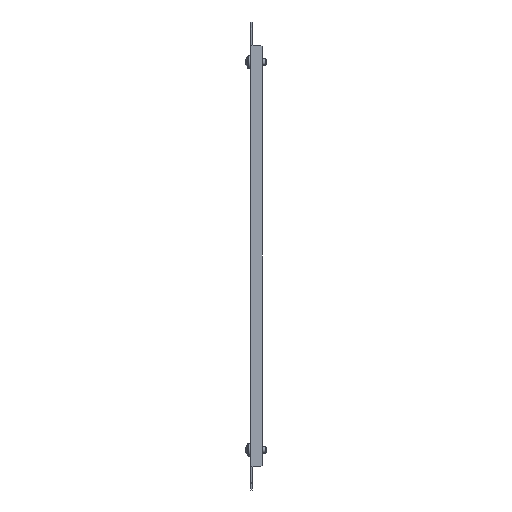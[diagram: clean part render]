
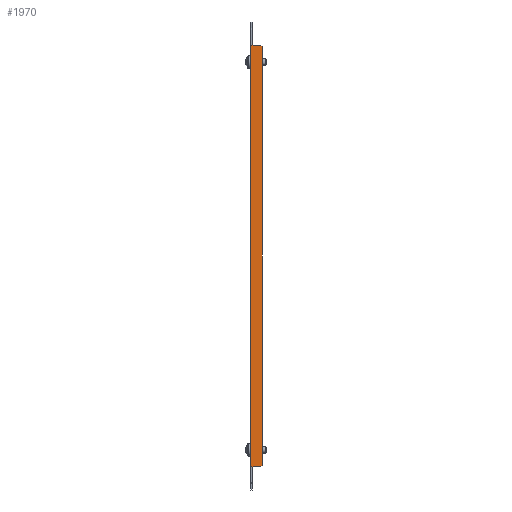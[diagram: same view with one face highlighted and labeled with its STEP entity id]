
A CAD part, left-side view. The second image highlights one B-rep face of the part: STEP entity #1970.
In plain terms, the highlighted planar face has unit normal (-1, 0, 0) as drawn and (1, 0, 0) by its records, which use the part's own axes.
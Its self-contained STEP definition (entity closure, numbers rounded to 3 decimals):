
#11 = LINE ( 'NONE', #421, #437 ) ;
#45 = CARTESIAN_POINT ( 'NONE',  ( 134., -163., -8. ) ) ;
#58 = EDGE_CURVE ( 'NONE', #2334, #269, #1135, .T. ) ;
#98 = CARTESIAN_POINT ( 'NONE',  ( 134., 163., -8. ) ) ;
#137 = ORIENTED_EDGE ( 'NONE', *, *, #2398, .T. ) ;
#184 = CARTESIAN_POINT ( 'NONE',  ( 134., -163., 0. ) ) ;
#188 = CARTESIAN_POINT ( 'NONE',  ( 134., 0., -9. ) ) ;
#269 = VERTEX_POINT ( 'NONE', #45 ) ;
#362 = VERTEX_POINT ( 'NONE', #1465 ) ;
#421 = CARTESIAN_POINT ( 'NONE',  ( 134., -162., -9. ) ) ;
#436 = CARTESIAN_POINT ( 'NONE',  ( 134., -163., 0. ) ) ;
#437 = VECTOR ( 'NONE', #2274, 1000. ) ;
#469 = EDGE_CURVE ( 'NONE', #988, #1177, #1475, .T. ) ;
#481 = DIRECTION ( 'NONE',  ( 0., 0., 1. ) ) ;
#558 = VERTEX_POINT ( 'NONE', #1768 ) ;
#683 = DIRECTION ( 'NONE',  ( 0., 0., -1. ) ) ;
#697 = LINE ( 'NONE', #436, #2885 ) ;
#702 = LINE ( 'NONE', #1176, #1924 ) ;
#713 = LINE ( 'NONE', #2545, #2795 ) ;
#840 = ORIENTED_EDGE ( 'NONE', *, *, #2308, .T. ) ;
#879 = CARTESIAN_POINT ( 'NONE',  ( 134., 163., -2.1 ) ) ;
#887 = DIRECTION ( 'NONE',  ( 0., 0., 1. ) ) ;
#938 = DIRECTION ( 'NONE',  ( 0., -1., 0. ) ) ;
#959 = DIRECTION ( 'NONE',  ( 0., 0., 1. ) ) ;
#988 = VERTEX_POINT ( 'NONE', #879 ) ;
#1086 = ORIENTED_EDGE ( 'NONE', *, *, #2911, .T. ) ;
#1104 = LINE ( 'NONE', #188, #1544 ) ;
#1135 = LINE ( 'NONE', #184, #2637 ) ;
#1176 = CARTESIAN_POINT ( 'NONE',  ( 134., 163., -8. ) ) ;
#1177 = VERTEX_POINT ( 'NONE', #1632 ) ;
#1230 = EDGE_CURVE ( 'NONE', #362, #2787, #702, .T. ) ;
#1255 = DIRECTION ( 'NONE',  ( 0., 0., 1. ) ) ;
#1273 = DIRECTION ( 'NONE',  ( 0., 1., 0. ) ) ;
#1274 = CARTESIAN_POINT ( 'NONE',  ( 134., -162., -9. ) ) ;
#1317 = EDGE_CURVE ( 'NONE', #1177, #558, #2236, .T. ) ;
#1340 = CARTESIAN_POINT ( 'NONE',  ( 134., -163., -2.1 ) ) ;
#1369 = CARTESIAN_POINT ( 'NONE',  ( 134., 0., 0. ) ) ;
#1403 = AXIS2_PLACEMENT_3D ( 'NONE', #2395, #2069, #959 ) ;
#1465 = CARTESIAN_POINT ( 'NONE',  ( 134., 162., -9. ) ) ;
#1475 = LINE ( 'NONE', #2393, #1535 ) ;
#1492 = ORIENTED_EDGE ( 'NONE', *, *, #469, .T. ) ;
#1521 = ORIENTED_EDGE ( 'NONE', *, *, #1230, .T. ) ;
#1535 = VECTOR ( 'NONE', #1255, 1000. ) ;
#1544 = VECTOR ( 'NONE', #1273, 1000. ) ;
#1617 = DIRECTION ( 'NONE',  ( 0., 0.707, 0.707 ) ) ;
#1632 = CARTESIAN_POINT ( 'NONE',  ( 134., 163., 0. ) ) ;
#1641 = VERTEX_POINT ( 'NONE', #1274 ) ;
#1653 = FACE_OUTER_BOUND ( 'NONE', #1732, .T. ) ;
#1732 = EDGE_LOOP ( 'NONE', ( #1086, #1521, #137, #1492, #2277, #2300, #1781, #840 ) ) ;
#1768 = CARTESIAN_POINT ( 'NONE',  ( 134., -163., 0. ) ) ;
#1781 = ORIENTED_EDGE ( 'NONE', *, *, #58, .T. ) ;
#1924 = VECTOR ( 'NONE', #1617, 1000. ) ;
#1970 = ADVANCED_FACE ( 'NONE', ( #1653 ), #2102, .F. ) ;
#2069 = DIRECTION ( 'NONE',  ( -1., 0., 0. ) ) ;
#2102 = PLANE ( 'NONE',  #1403 ) ;
#2236 = LINE ( 'NONE', #1369, #2931 ) ;
#2274 = DIRECTION ( 'NONE',  ( 0., 0.707, -0.707 ) ) ;
#2277 = ORIENTED_EDGE ( 'NONE', *, *, #1317, .T. ) ;
#2300 = ORIENTED_EDGE ( 'NONE', *, *, #2327, .F. ) ;
#2308 = EDGE_CURVE ( 'NONE', #269, #1641, #11, .T. ) ;
#2327 = EDGE_CURVE ( 'NONE', #2334, #558, #697, .T. ) ;
#2334 = VERTEX_POINT ( 'NONE', #1340 ) ;
#2393 = CARTESIAN_POINT ( 'NONE',  ( 134., 163., -2.1 ) ) ;
#2395 = CARTESIAN_POINT ( 'NONE',  ( 134., 0., 0. ) ) ;
#2398 = EDGE_CURVE ( 'NONE', #2787, #988, #713, .T. ) ;
#2545 = CARTESIAN_POINT ( 'NONE',  ( 134., 163., 0. ) ) ;
#2637 = VECTOR ( 'NONE', #683, 1000. ) ;
#2787 = VERTEX_POINT ( 'NONE', #98 ) ;
#2795 = VECTOR ( 'NONE', #481, 1000. ) ;
#2885 = VECTOR ( 'NONE', #887, 1000. ) ;
#2911 = EDGE_CURVE ( 'NONE', #1641, #362, #1104, .T. ) ;
#2931 = VECTOR ( 'NONE', #938, 1000. ) ;
